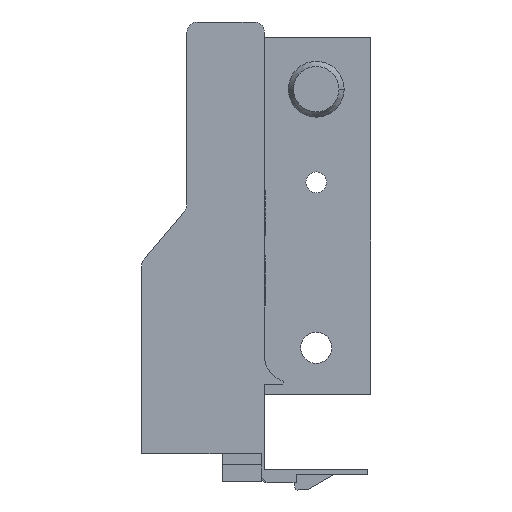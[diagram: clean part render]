
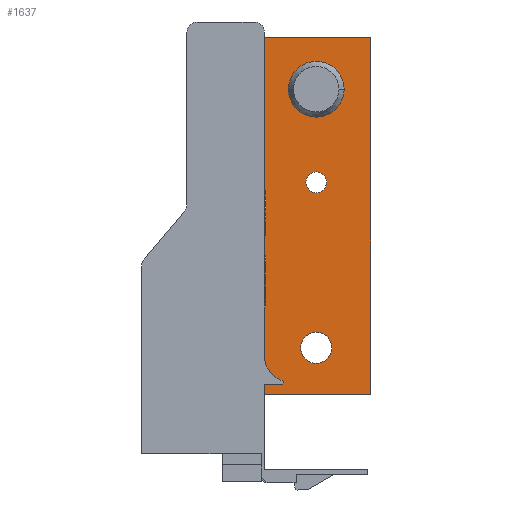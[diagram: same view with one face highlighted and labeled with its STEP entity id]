
A CAD part, front view. The second image highlights one B-rep face of the part: STEP entity #1637.
In plain terms, the highlighted planar face has unit normal (0, -1, 0).
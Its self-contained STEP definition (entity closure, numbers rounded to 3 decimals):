
#7 = CARTESIAN_POINT ( 'NONE',  ( 29.5, 647.2, 39. ) ) ;
#16 = VERTEX_POINT ( 'NONE', #24 ) ;
#24 = CARTESIAN_POINT ( 'NONE',  ( 33.5, 647.2, 39. ) ) ;
#27 = CARTESIAN_POINT ( 'NONE',  ( 42., 647.2, 67. ) ) ;
#53 = VERTEX_POINT ( 'NONE', #58 ) ;
#58 = CARTESIAN_POINT ( 'NONE',  ( 42., 647.2, -2. ) ) ;
#93 = VERTEX_POINT ( 'NONE', #7 ) ;
#109 = VERTEX_POINT ( 'NONE', #27 ) ;
#139 = VERTEX_POINT ( 'NONE', #237 ) ;
#172 = VERTEX_POINT ( 'NONE', #270 ) ;
#180 = VERTEX_POINT ( 'NONE', #278 ) ;
#207 = VERTEX_POINT ( 'NONE', #305 ) ;
#208 = VERTEX_POINT ( 'NONE', #306 ) ;
#209 = VERTEX_POINT ( 'NONE', #307 ) ;
#212 = VERTEX_POINT ( 'NONE', #310 ) ;
#213 = VERTEX_POINT ( 'NONE', #311 ) ;
#237 = CARTESIAN_POINT ( 'NONE',  ( 21.5, 647.2, -2. ) ) ;
#270 = CARTESIAN_POINT ( 'NONE',  ( 21.1, 647.2, 27. ) ) ;
#278 = CARTESIAN_POINT ( 'NONE',  ( 21.1, 647.2, 67. ) ) ;
#305 = CARTESIAN_POINT ( 'NONE',  ( 21.5, 647.2, 27. ) ) ;
#306 = CARTESIAN_POINT ( 'NONE',  ( 26.1, 647.2, 57. ) ) ;
#307 = CARTESIAN_POINT ( 'NONE',  ( 36.9, 647.2, 57. ) ) ;
#310 = CARTESIAN_POINT ( 'NONE',  ( 34.5, 647.2, 7. ) ) ;
#311 = CARTESIAN_POINT ( 'NONE',  ( 28.5, 647.2, 7. ) ) ;
#514 = PLANE ( 'NONE',  #1965 ) ;
#518 = CARTESIAN_POINT ( 'NONE',  ( 21.1, 647.2, 27. ) ) ;
#520 = DIRECTION ( 'NONE',  ( 0., -1., 0. ) ) ;
#522 = DIRECTION ( 'NONE',  ( -1., 0., 0. ) ) ;
#820 = CARTESIAN_POINT ( 'NONE',  ( 31.5, 647.2, 7. ) ) ;
#821 = DIRECTION ( 'NONE',  ( 0., -1., 0. ) ) ;
#822 = DIRECTION ( 'NONE',  ( -1., 0., 0. ) ) ;
#828 = CARTESIAN_POINT ( 'NONE',  ( 31.5, 647.2, 57. ) ) ;
#829 = DIRECTION ( 'NONE',  ( 0., 1., 0. ) ) ;
#830 = DIRECTION ( 'NONE',  ( -1., 0., 0. ) ) ;
#866 = CARTESIAN_POINT ( 'NONE',  ( 31.5, 647.2, 39. ) ) ;
#867 = DIRECTION ( 'NONE',  ( 0., -1., 0. ) ) ;
#868 = DIRECTION ( 'NONE',  ( -1., 0., 0. ) ) ;
#878 = CARTESIAN_POINT ( 'NONE',  ( 21.1, 647.2, 27. ) ) ;
#879 = DIRECTION ( 'NONE',  ( -1., 0., 0. ) ) ;
#892 = CARTESIAN_POINT ( 'NONE',  ( 21.1, 647.2, 67. ) ) ;
#893 = DIRECTION ( 'NONE',  ( -1., 0., 0. ) ) ;
#1235 = CARTESIAN_POINT ( 'NONE',  ( 21.1, 647.2, 27. ) ) ;
#1236 = DIRECTION ( 'NONE',  ( 0., 0., 1. ) ) ;
#1237 = CARTESIAN_POINT ( 'NONE',  ( 31.5, 647.2, 57. ) ) ;
#1238 = DIRECTION ( 'NONE',  ( 0., 1., 0. ) ) ;
#1239 = DIRECTION ( 'NONE',  ( -1., 0., 0. ) ) ;
#1240 = CARTESIAN_POINT ( 'NONE',  ( 31.5, 647.2, 7. ) ) ;
#1241 = DIRECTION ( 'NONE',  ( 0., -1., 0. ) ) ;
#1242 = DIRECTION ( 'NONE',  ( -1., 0., 0. ) ) ;
#1243 = CARTESIAN_POINT ( 'NONE',  ( 31.5, 647.2, 39. ) ) ;
#1244 = DIRECTION ( 'NONE',  ( 0., -1., 0. ) ) ;
#1245 = DIRECTION ( 'NONE',  ( -1., 0., 0. ) ) ;
#1246 = CARTESIAN_POINT ( 'NONE',  ( 42., 647.2, 27. ) ) ;
#1247 = DIRECTION ( 'NONE',  ( 0., 0., 1. ) ) ;
#1248 = CARTESIAN_POINT ( 'NONE',  ( 21.5, 647.2, -2. ) ) ;
#1249 = DIRECTION ( 'NONE',  ( 0., 0., 1. ) ) ;
#1250 = CARTESIAN_POINT ( 'NONE',  ( 21.5, 647.2, -2. ) ) ;
#1251 = DIRECTION ( 'NONE',  ( 1., 0., 0. ) ) ;
#1480 = LINE ( 'NONE', #1235, #1481 ) ;
#1481 = VECTOR ( 'NONE', #1236, 1000. ) ;
#1482 = CIRCLE ( 'NONE', #2043, 5.4 ) ;
#1483 = CIRCLE ( 'NONE', #2044, 3. ) ;
#1484 = LINE ( 'NONE', #1246, #1486 ) ;
#1485 = CIRCLE ( 'NONE', #2045, 2. ) ;
#1486 = VECTOR ( 'NONE', #1247, 1000. ) ;
#1487 = LINE ( 'NONE', #1248, #1488 ) ;
#1488 = VECTOR ( 'NONE', #1249, 1000. ) ;
#1489 = LINE ( 'NONE', #1250, #1490 ) ;
#1490 = VECTOR ( 'NONE', #1251, 1000. ) ;
#1637 = ADVANCED_FACE ( 'NONE', ( #2609, #2616, #2621, #2599 ), #514, .T. ) ;
#1679 = EDGE_CURVE ( 'NONE', #212, #213, #2756, .T. ) ;
#1682 = EDGE_CURVE ( 'NONE', #209, #208, #2764, .T. ) ;
#1697 = EDGE_CURVE ( 'NONE', #16, #93, #2736, .T. ) ;
#1702 = EDGE_CURVE ( 'NONE', #207, #172, #2761, .T. ) ;
#1708 = EDGE_CURVE ( 'NONE', #109, #180, #2716, .T. ) ;
#1865 = EDGE_CURVE ( 'NONE', #172, #180, #1480, .T. ) ;
#1866 = EDGE_CURVE ( 'NONE', #208, #209, #1482, .T. ) ;
#1867 = EDGE_CURVE ( 'NONE', #213, #212, #1483, .T. ) ;
#1868 = EDGE_CURVE ( 'NONE', #93, #16, #1485, .T. ) ;
#1869 = EDGE_CURVE ( 'NONE', #53, #109, #1484, .T. ) ;
#1870 = EDGE_CURVE ( 'NONE', #139, #207, #1487, .T. ) ;
#1871 = EDGE_CURVE ( 'NONE', #139, #53, #1489, .T. ) ;
#1965 = AXIS2_PLACEMENT_3D ( 'NONE', #518, #520, #522 ) ;
#2000 = AXIS2_PLACEMENT_3D ( 'NONE', #820, #821, #822 ) ;
#2002 = AXIS2_PLACEMENT_3D ( 'NONE', #828, #829, #830 ) ;
#2010 = AXIS2_PLACEMENT_3D ( 'NONE', #866, #867, #868 ) ;
#2043 = AXIS2_PLACEMENT_3D ( 'NONE', #1237, #1238, #1239 ) ;
#2044 = AXIS2_PLACEMENT_3D ( 'NONE', #1240, #1241, #1242 ) ;
#2045 = AXIS2_PLACEMENT_3D ( 'NONE', #1243, #1244, #1245 ) ;
#2146 = EDGE_LOOP ( 'NONE', ( #2421, #2389 ) ) ;
#2339 = EDGE_LOOP ( 'NONE', ( #2437, #2354, #2522, #2433, #2508, #2434 ) ) ;
#2354 = ORIENTED_EDGE ( 'NONE', *, *, #1708, .T. ) ;
#2355 = EDGE_LOOP ( 'NONE', ( #2446, #2452 ) ) ;
#2388 = ORIENTED_EDGE ( 'NONE', *, *, #1868, .F. ) ;
#2389 = ORIENTED_EDGE ( 'NONE', *, *, #1867, .F. ) ;
#2421 = ORIENTED_EDGE ( 'NONE', *, *, #1679, .F. ) ;
#2433 = ORIENTED_EDGE ( 'NONE', *, *, #1702, .F. ) ;
#2434 = ORIENTED_EDGE ( 'NONE', *, *, #1871, .T. ) ;
#2437 = ORIENTED_EDGE ( 'NONE', *, *, #1869, .T. ) ;
#2438 = ORIENTED_EDGE ( 'NONE', *, *, #1697, .F. ) ;
#2446 = ORIENTED_EDGE ( 'NONE', *, *, #1682, .T. ) ;
#2452 = ORIENTED_EDGE ( 'NONE', *, *, #1866, .T. ) ;
#2508 = ORIENTED_EDGE ( 'NONE', *, *, #1870, .F. ) ;
#2522 = ORIENTED_EDGE ( 'NONE', *, *, #1865, .F. ) ;
#2561 = EDGE_LOOP ( 'NONE', ( #2438, #2388 ) ) ;
#2599 = FACE_OUTER_BOUND ( 'NONE', #2339, .T. ) ;
#2609 = FACE_BOUND ( 'NONE', #2355, .T. ) ;
#2616 = FACE_BOUND ( 'NONE', #2146, .T. ) ;
#2621 = FACE_BOUND ( 'NONE', #2561, .T. ) ;
#2716 = LINE ( 'NONE', #892, #2740 ) ;
#2736 = CIRCLE ( 'NONE', #2010, 2. ) ;
#2740 = VECTOR ( 'NONE', #893, 1000. ) ;
#2756 = CIRCLE ( 'NONE', #2000, 3. ) ;
#2760 = VECTOR ( 'NONE', #879, 1000. ) ;
#2761 = LINE ( 'NONE', #878, #2760 ) ;
#2764 = CIRCLE ( 'NONE', #2002, 5.4 ) ;
